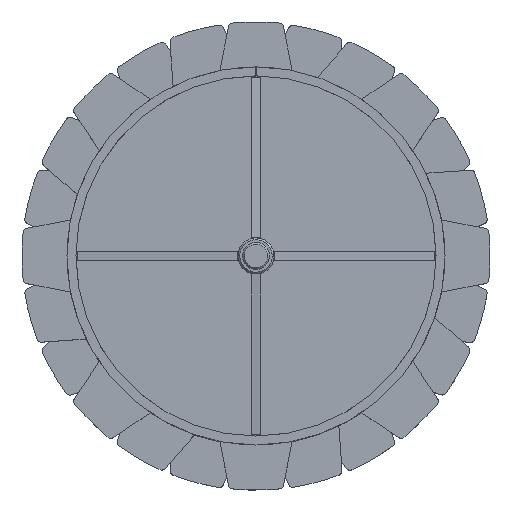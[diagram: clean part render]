
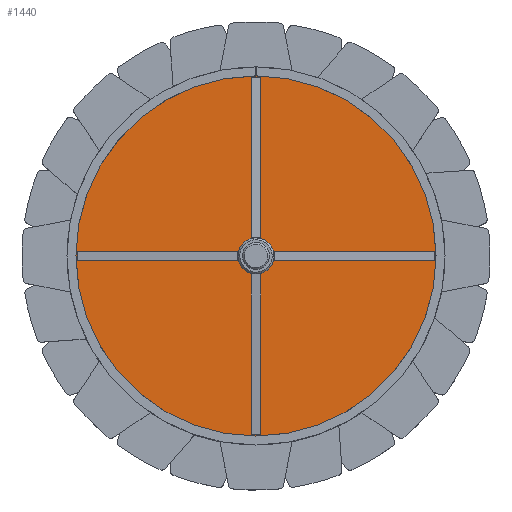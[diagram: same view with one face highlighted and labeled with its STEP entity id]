
A CAD part, top view. The second image highlights one B-rep face of the part: STEP entity #1440.
In plain terms, the highlighted planar face has unit normal (0, 0, 1).
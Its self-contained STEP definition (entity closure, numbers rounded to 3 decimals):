
#65 = VERTEX_POINT ( 'NONE', #1175 ) ;
#243 = EDGE_LOOP ( 'NONE', ( #522, #1176 ) ) ;
#309 = VERTEX_POINT ( 'NONE', #1770 ) ;
#364 = CARTESIAN_POINT ( 'NONE',  ( -20., 0., 10. ) ) ;
#367 = CIRCLE ( 'NONE', #1511, 200. ) ;
#458 = DIRECTION ( 'NONE',  ( 0., 0., 1. ) ) ;
#501 = DIRECTION ( 'NONE',  ( 1., 0., 0. ) ) ;
#505 = CARTESIAN_POINT ( 'NONE',  ( 0., 0., 10. ) ) ;
#522 = ORIENTED_EDGE ( 'NONE', *, *, #1794, .T. ) ;
#624 = VERTEX_POINT ( 'NONE', #364 ) ;
#636 = DIRECTION ( 'NONE',  ( 0., 0., 1. ) ) ;
#745 = DIRECTION ( 'NONE',  ( 0., 0., 1. ) ) ;
#777 = VERTEX_POINT ( 'NONE', #2715 ) ;
#812 = ORIENTED_EDGE ( 'NONE', *, *, #2112, .F. ) ;
#894 = AXIS2_PLACEMENT_3D ( 'NONE', #2049, #1600, #915 ) ;
#915 = DIRECTION ( 'NONE',  ( 1., 0., 0. ) ) ;
#977 = CIRCLE ( 'NONE', #894, 20. ) ;
#1095 = ORIENTED_EDGE ( 'NONE', *, *, #1768, .F. ) ;
#1175 = CARTESIAN_POINT ( 'NONE',  ( 200., 0., 10. ) ) ;
#1176 = ORIENTED_EDGE ( 'NONE', *, *, #2421, .T. ) ;
#1332 = AXIS2_PLACEMENT_3D ( 'NONE', #1659, #458, #501 ) ;
#1440 = ADVANCED_FACE ( 'NONE', ( #1942, #1704 ), #2104, .T. ) ;
#1511 = AXIS2_PLACEMENT_3D ( 'NONE', #1541, #2448, #1790 ) ;
#1517 = DIRECTION ( 'NONE',  ( 1., 0., 0. ) ) ;
#1541 = CARTESIAN_POINT ( 'NONE',  ( 0., 0., 10. ) ) ;
#1600 = DIRECTION ( 'NONE',  ( 0., 0., 1. ) ) ;
#1659 = CARTESIAN_POINT ( 'NONE',  ( 0., 0., 10. ) ) ;
#1688 = AXIS2_PLACEMENT_3D ( 'NONE', #505, #745, #2576 ) ;
#1704 = FACE_BOUND ( 'NONE', #2267, .T. ) ;
#1768 = EDGE_CURVE ( 'NONE', #624, #777, #2594, .T. ) ;
#1770 = CARTESIAN_POINT ( 'NONE',  ( -200., 0., 10. ) ) ;
#1779 = AXIS2_PLACEMENT_3D ( 'NONE', #2676, #636, #1517 ) ;
#1790 = DIRECTION ( 'NONE',  ( 1., 0., 0. ) ) ;
#1794 = EDGE_CURVE ( 'NONE', #309, #65, #367, .T. ) ;
#1942 = FACE_OUTER_BOUND ( 'NONE', #243, .T. ) ;
#2049 = CARTESIAN_POINT ( 'NONE',  ( 0., 0., 10. ) ) ;
#2088 = CIRCLE ( 'NONE', #1332, 200. ) ;
#2104 = PLANE ( 'NONE',  #1688 ) ;
#2112 = EDGE_CURVE ( 'NONE', #777, #624, #977, .T. ) ;
#2267 = EDGE_LOOP ( 'NONE', ( #1095, #812 ) ) ;
#2421 = EDGE_CURVE ( 'NONE', #65, #309, #2088, .T. ) ;
#2448 = DIRECTION ( 'NONE',  ( 0., 0., 1. ) ) ;
#2576 = DIRECTION ( 'NONE',  ( 1., 0., 0. ) ) ;
#2594 = CIRCLE ( 'NONE', #1779, 20. ) ;
#2676 = CARTESIAN_POINT ( 'NONE',  ( 0., 0., 10. ) ) ;
#2715 = CARTESIAN_POINT ( 'NONE',  ( 20., 0., 10. ) ) ;
